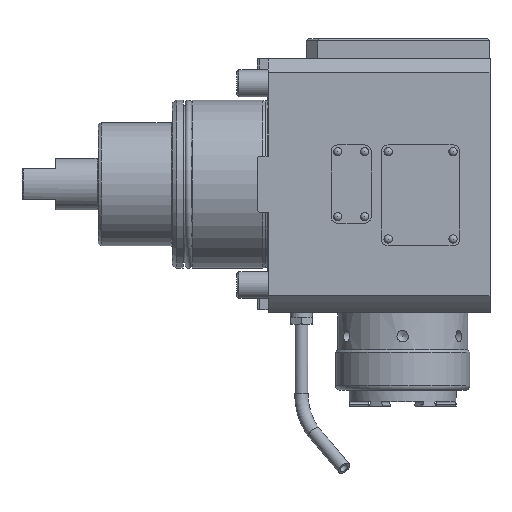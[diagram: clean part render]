
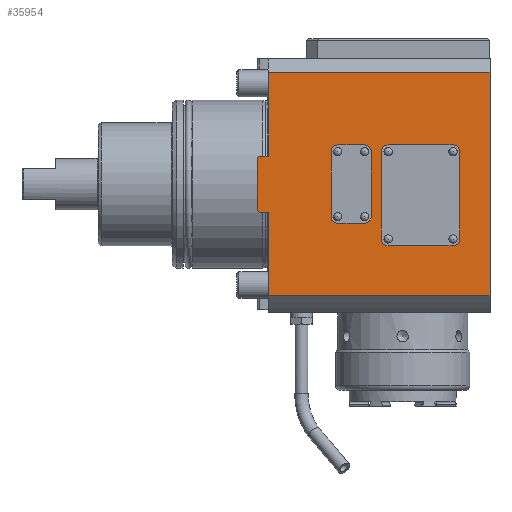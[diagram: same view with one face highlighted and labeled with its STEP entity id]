
A CAD part, front view. The second image highlights one B-rep face of the part: STEP entity #35954.
In plain terms, the highlighted planar face has unit normal (0, -1, 0) as drawn and (0, 0, -1) by its records, which use the part's own axes.
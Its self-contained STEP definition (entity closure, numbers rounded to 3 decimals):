
#13883=VECTOR('',#22009,1.);
#13893=VECTOR('',#22027,1.);
#13901=VECTOR('',#22051,1.);
#13902=VECTOR('',#22052,1.);
#13903=VECTOR('',#22053,1.);
#13904=VECTOR('',#22054,1.);
#13905=VECTOR('',#22055,1.);
#13906=VECTOR('',#22056,1.);
#13907=VECTOR('',#22057,1.);
#13908=VECTOR('',#22058,1.);
#13909=VECTOR('',#22059,1.);
#13910=VECTOR('',#22062,1.);
#13911=VECTOR('',#22065,1.);
#13912=VECTOR('',#22068,1.);
#13913=VECTOR('',#22071,1.);
#13914=VECTOR('',#22074,1.);
#13915=VECTOR('',#22077,1.);
#13916=VECTOR('',#22080,1.);
#14473=LINE('',#24787,#13883);
#14483=LINE('',#24813,#13893);
#14491=LINE('',#24843,#13901);
#14492=LINE('',#24845,#13902);
#14493=LINE('',#24846,#13903);
#14494=LINE('',#24848,#13904);
#14495=LINE('',#24850,#13905);
#14496=LINE('',#24852,#13906);
#14497=LINE('',#24854,#13907);
#14498=LINE('',#24855,#13908);
#14499=LINE('',#24858,#13909);
#14500=LINE('',#24862,#13910);
#14501=LINE('',#24866,#13911);
#14502=LINE('',#24870,#13912);
#14503=LINE('',#24874,#13913);
#14504=LINE('',#24878,#13914);
#14505=LINE('',#24882,#13915);
#14506=LINE('',#24886,#13916);
#15040=PLANE('',#34720);
#15460=ORIENTED_EDGE('',*,*,#19017,.T.);
#15461=ORIENTED_EDGE('',*,*,#19032,.T.);
#15462=ORIENTED_EDGE('',*,*,#19033,.T.);
#15463=ORIENTED_EDGE('',*,*,#19034,.T.);
#15464=ORIENTED_EDGE('',*,*,#19003,.T.);
#15465=ORIENTED_EDGE('',*,*,#19035,.T.);
#15466=ORIENTED_EDGE('',*,*,#19036,.T.);
#15467=ORIENTED_EDGE('',*,*,#19037,.T.);
#15468=ORIENTED_EDGE('',*,*,#19038,.T.);
#15469=ORIENTED_EDGE('',*,*,#19039,.T.);
#15470=ORIENTED_EDGE('',*,*,#19040,.T.);
#15471=ORIENTED_EDGE('',*,*,#19041,.T.);
#15472=ORIENTED_EDGE('',*,*,#19042,.T.);
#15473=ORIENTED_EDGE('',*,*,#19043,.T.);
#15474=ORIENTED_EDGE('',*,*,#19044,.T.);
#15475=ORIENTED_EDGE('',*,*,#19045,.T.);
#15476=ORIENTED_EDGE('',*,*,#19046,.T.);
#15477=ORIENTED_EDGE('',*,*,#19047,.T.);
#15478=ORIENTED_EDGE('',*,*,#19048,.T.);
#15479=ORIENTED_EDGE('',*,*,#19049,.T.);
#15480=ORIENTED_EDGE('',*,*,#19050,.T.);
#15481=ORIENTED_EDGE('',*,*,#19051,.T.);
#15482=ORIENTED_EDGE('',*,*,#19052,.T.);
#15483=ORIENTED_EDGE('',*,*,#19053,.T.);
#15484=ORIENTED_EDGE('',*,*,#19054,.T.);
#15485=ORIENTED_EDGE('',*,*,#19055,.T.);
#17695=CIRCLE('',#34721,3.);
#17696=CIRCLE('',#34722,3.);
#17697=CIRCLE('',#34723,3.);
#17698=CIRCLE('',#34724,3.);
#17699=CIRCLE('',#34725,3.);
#17700=CIRCLE('',#34726,3.);
#17701=CIRCLE('',#34727,3.);
#17702=CIRCLE('',#34728,3.);
#18150=VERTEX_POINT('',#24785);
#18151=VERTEX_POINT('',#24786);
#18162=VERTEX_POINT('',#24810);
#18163=VERTEX_POINT('',#24812);
#18177=VERTEX_POINT('',#24842);
#18178=VERTEX_POINT('',#24844);
#18179=VERTEX_POINT('',#24847);
#18180=VERTEX_POINT('',#24849);
#18181=VERTEX_POINT('',#24851);
#18182=VERTEX_POINT('',#24853);
#18183=VERTEX_POINT('',#24856);
#18184=VERTEX_POINT('',#24857);
#18185=VERTEX_POINT('',#24859);
#18186=VERTEX_POINT('',#24861);
#18187=VERTEX_POINT('',#24863);
#18188=VERTEX_POINT('',#24865);
#18189=VERTEX_POINT('',#24867);
#18190=VERTEX_POINT('',#24869);
#18191=VERTEX_POINT('',#24872);
#18192=VERTEX_POINT('',#24873);
#18193=VERTEX_POINT('',#24875);
#18194=VERTEX_POINT('',#24877);
#18195=VERTEX_POINT('',#24879);
#18196=VERTEX_POINT('',#24881);
#18197=VERTEX_POINT('',#24883);
#18198=VERTEX_POINT('',#24885);
#19003=EDGE_CURVE('',#18150,#18151,#14473,.T.);
#19017=EDGE_CURVE('',#18163,#18162,#14483,.T.);
#19032=EDGE_CURVE('',#18162,#18177,#14491,.T.);
#19033=EDGE_CURVE('',#18177,#18178,#14492,.T.);
#19034=EDGE_CURVE('',#18178,#18150,#14493,.T.);
#19035=EDGE_CURVE('',#18151,#18179,#14494,.T.);
#19036=EDGE_CURVE('',#18179,#18180,#14495,.T.);
#19037=EDGE_CURVE('',#18180,#18181,#14496,.T.);
#19038=EDGE_CURVE('',#18181,#18182,#14497,.T.);
#19039=EDGE_CURVE('',#18182,#18163,#14498,.T.);
#19040=EDGE_CURVE('',#18183,#18184,#14499,.T.);
#19041=EDGE_CURVE('',#18184,#18185,#17695,.T.);
#19042=EDGE_CURVE('',#18185,#18186,#14500,.T.);
#19043=EDGE_CURVE('',#18186,#18187,#17696,.T.);
#19044=EDGE_CURVE('',#18187,#18188,#14501,.T.);
#19045=EDGE_CURVE('',#18188,#18189,#17697,.T.);
#19046=EDGE_CURVE('',#18189,#18190,#14502,.T.);
#19047=EDGE_CURVE('',#18190,#18183,#17698,.T.);
#19048=EDGE_CURVE('',#18191,#18192,#14503,.T.);
#19049=EDGE_CURVE('',#18192,#18193,#17699,.T.);
#19050=EDGE_CURVE('',#18193,#18194,#14504,.T.);
#19051=EDGE_CURVE('',#18194,#18195,#17700,.T.);
#19052=EDGE_CURVE('',#18195,#18196,#14505,.T.);
#19053=EDGE_CURVE('',#18196,#18197,#17701,.T.);
#19054=EDGE_CURVE('',#18197,#18198,#14506,.T.);
#19055=EDGE_CURVE('',#18198,#18191,#17702,.T.);
#20134=EDGE_LOOP('',(#15460,#15461,#15462,#15463,#15464,#15465,#15466,#15467,
#15468,#15469));
#20135=EDGE_LOOP('',(#15470,#15471,#15472,#15473,#15474,#15475,#15476,#15477));
#20136=EDGE_LOOP('',(#15478,#15479,#15480,#15481,#15482,#15483,#15484,#15485));
#21048=FACE_BOUND('',#20134,.T.);
#21049=FACE_BOUND('',#20135,.T.);
#21050=FACE_BOUND('',#20136,.T.);
#22009=DIRECTION('',(0.,37.39,0.));
#22027=DIRECTION('',(0.,37.39,0.));
#22049=DIRECTION('',(0.,0.,-1.));
#22050=DIRECTION('',(0.,1.,0.));
#22051=DIRECTION('',(99.,0.,0.));
#22052=DIRECTION('',(0.,-99.78,0.));
#22053=DIRECTION('',(-99.,0.,0.));
#22054=DIRECTION('',(-4.,0.,0.));
#22055=DIRECTION('',(-1.,0.577,0.));
#22056=DIRECTION('',(0.,23.845,0.));
#22057=DIRECTION('',(1.,0.577,0.));
#22058=DIRECTION('',(4.,0.,0.));
#22059=DIRECTION('',(0.,39.,0.));
#22060=DIRECTION('',(0.,0.,1.));
#22061=DIRECTION('',(3.,0.,0.));
#22062=DIRECTION('',(-29.,0.,0.));
#22063=DIRECTION('',(0.,0.,1.));
#22064=DIRECTION('',(0.,3.,0.));
#22065=DIRECTION('',(0.,-39.,0.));
#22066=DIRECTION('',(0.,0.,1.));
#22067=DIRECTION('',(-3.,0.,0.));
#22068=DIRECTION('',(29.,0.,0.));
#22069=DIRECTION('',(0.,0.,1.));
#22070=DIRECTION('',(0.,-3.,0.));
#22071=DIRECTION('',(0.,-29.,0.));
#22072=DIRECTION('',(0.,0.,1.));
#22073=DIRECTION('',(-3.,0.,0.));
#22074=DIRECTION('',(12.,0.,0.));
#22075=DIRECTION('',(0.,0.,1.));
#22076=DIRECTION('',(0.,-3.,0.));
#22077=DIRECTION('',(0.,29.,0.));
#22078=DIRECTION('',(0.,0.,1.));
#22079=DIRECTION('',(3.,0.,0.));
#22080=DIRECTION('',(-12.,0.,0.));
#22081=DIRECTION('',(0.,0.,1.));
#22082=DIRECTION('',(0.,3.,0.));
#24785=CARTESIAN_POINT('',(868.909,219.714,-56.));
#24786=CARTESIAN_POINT('',(868.909,257.104,-56.));
#24787=CARTESIAN_POINT('',(868.909,219.714,-56.));
#24810=CARTESIAN_POINT('',(868.909,319.494,-56.));
#24812=CARTESIAN_POINT('',(868.909,282.104,-56.));
#24813=CARTESIAN_POINT('',(868.909,282.104,-56.));
#24841=CARTESIAN_POINT('',(868.909,219.714,-56.));
#24842=CARTESIAN_POINT('',(967.909,319.494,-56.));
#24843=CARTESIAN_POINT('',(868.909,319.494,-56.));
#24844=CARTESIAN_POINT('',(967.909,219.714,-56.));
#24845=CARTESIAN_POINT('',(967.909,319.494,-56.));
#24846=CARTESIAN_POINT('',(967.909,219.714,-56.));
#24847=CARTESIAN_POINT('',(864.909,257.104,-56.));
#24848=CARTESIAN_POINT('',(868.909,257.104,-56.));
#24849=CARTESIAN_POINT('',(863.909,257.681,-56.));
#24850=CARTESIAN_POINT('',(864.909,257.104,-56.));
#24851=CARTESIAN_POINT('',(863.909,281.527,-56.));
#24852=CARTESIAN_POINT('',(863.909,257.681,-56.));
#24853=CARTESIAN_POINT('',(864.909,282.104,-56.));
#24854=CARTESIAN_POINT('',(863.909,281.527,-56.));
#24855=CARTESIAN_POINT('',(864.909,282.104,-56.));
#24856=CARTESIAN_POINT('',(954.409,255.104,-56.));
#24857=CARTESIAN_POINT('',(954.409,294.104,-56.));
#24858=CARTESIAN_POINT('',(954.409,255.104,-56.));
#24859=CARTESIAN_POINT('',(951.409,297.104,-56.));
#24860=CARTESIAN_POINT('',(951.409,294.104,-56.));
#24861=CARTESIAN_POINT('',(922.409,297.104,-56.));
#24862=CARTESIAN_POINT('',(951.409,297.104,-56.));
#24863=CARTESIAN_POINT('',(919.409,294.104,-56.));
#24864=CARTESIAN_POINT('',(922.409,294.104,-56.));
#24865=CARTESIAN_POINT('',(919.409,255.104,-56.));
#24866=CARTESIAN_POINT('',(919.409,294.104,-56.));
#24867=CARTESIAN_POINT('',(922.409,252.104,-56.));
#24868=CARTESIAN_POINT('',(922.409,255.104,-56.));
#24869=CARTESIAN_POINT('',(951.409,252.104,-56.));
#24870=CARTESIAN_POINT('',(922.409,252.104,-56.));
#24871=CARTESIAN_POINT('',(951.409,255.104,-56.));
#24872=CARTESIAN_POINT('',(896.909,284.104,-56.));
#24873=CARTESIAN_POINT('',(896.909,255.104,-56.));
#24874=CARTESIAN_POINT('',(896.909,284.104,-56.));
#24875=CARTESIAN_POINT('',(899.909,252.104,-56.));
#24876=CARTESIAN_POINT('',(899.909,255.104,-56.));
#24877=CARTESIAN_POINT('',(911.909,252.104,-56.));
#24878=CARTESIAN_POINT('',(899.909,252.104,-56.));
#24879=CARTESIAN_POINT('',(914.909,255.104,-56.));
#24880=CARTESIAN_POINT('',(911.909,255.104,-56.));
#24881=CARTESIAN_POINT('',(914.909,284.104,-56.));
#24882=CARTESIAN_POINT('',(914.909,255.104,-56.));
#24883=CARTESIAN_POINT('',(911.909,287.104,-56.));
#24884=CARTESIAN_POINT('',(911.909,284.104,-56.));
#24885=CARTESIAN_POINT('',(899.909,287.104,-56.));
#24886=CARTESIAN_POINT('',(911.909,287.104,-56.));
#24887=CARTESIAN_POINT('',(899.909,284.104,-56.));
#34720=AXIS2_PLACEMENT_3D('',#24841,#22049,#22050);
#34721=AXIS2_PLACEMENT_3D('',#24860,#22060,#22061);
#34722=AXIS2_PLACEMENT_3D('',#24864,#22063,#22064);
#34723=AXIS2_PLACEMENT_3D('',#24868,#22066,#22067);
#34724=AXIS2_PLACEMENT_3D('',#24871,#22069,#22070);
#34725=AXIS2_PLACEMENT_3D('',#24876,#22072,#22073);
#34726=AXIS2_PLACEMENT_3D('',#24880,#22075,#22076);
#34727=AXIS2_PLACEMENT_3D('',#24884,#22078,#22079);
#34728=AXIS2_PLACEMENT_3D('',#24887,#22081,#22082);
#35954=ADVANCED_FACE('',(#21048,#21049,#21050),#15040,.T.);
